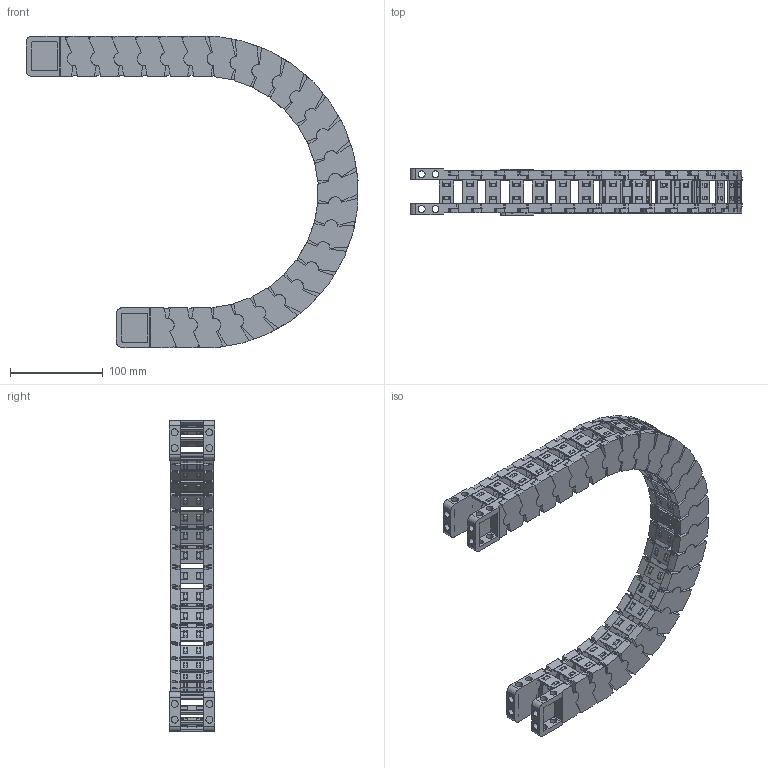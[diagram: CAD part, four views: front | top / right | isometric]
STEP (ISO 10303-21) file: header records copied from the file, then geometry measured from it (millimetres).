
FILE_DESCRIPTION((''),'2;1');
FILE_NAME('JY-35X25-R150_ASM','2022-05-06T19:40:02',('admin'),(''),'CREO PARAMETRIC BY PTC INC, 2021164','CREO PARAMETRIC BY PTC INC, 2021164','');
FILE_SCHEMA(('CONFIG_CONTROL_DESIGN','GEOMETRIC_VALIDATION_PROPERTIES_MIM'));
Length unit declared in the file: millimetre
Products named in the file (11): 35XL-L; 25-35XL-YP; 35XL-R; ASM0001_ASM; 35-LTT-A-L; 35-LTT-A-R; 35XL-LTT-A_ASM; 35-LTT-B-L; 35-LTT-B-R; 35XL-LTT-B_ASM; JY-35X25-R150_ASM
Assembly tree (39 placements, depth 3):
  JY-35X25-R150_ASM
    ASM0001_ASM  x25
      35XL-L
      25-35XL-YP
      35XL-R
    35XL-LTT-A_ASM
      35-LTT-A-L
      25-35XL-YP  x2
      35-LTT-A-R
    35XL-LTT-B_ASM
      35-LTT-B-L
      25-35XL-YP  x2
      35-LTT-B-R
Bounding box: 358.3 x 49.6 x 336.22 mm (x, y, z)
Volume: 621988.1 mm3; surface area: 372332.5 mm2
Topology: 108 solids, 108 shells, 5602 faces, 16394 edges, 10960 vertices
Faces by surface type: plane 4266, cylinder 1332, bspline 4
Entity records: 20934 total; most frequent: CARTESIAN_POINT 3255, DIRECTION 2876, ORIENTED_EDGE 2876, EDGE_CURVE 1438, VECTOR 1056, LINE 1056, VERTEX_POINT 964, AXIS2_PLACEMENT_3D 910
